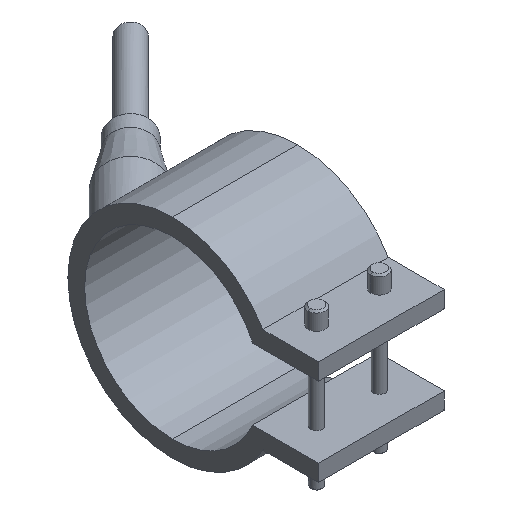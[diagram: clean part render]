
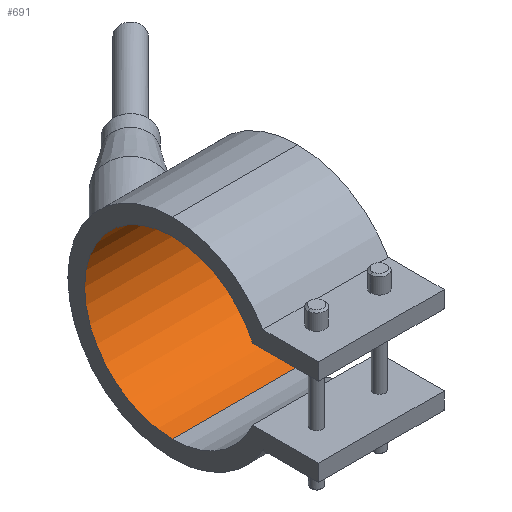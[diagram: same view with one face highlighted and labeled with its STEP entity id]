
A CAD part, isometric view. The second image highlights one B-rep face of the part: STEP entity #691.
In plain terms, the highlighted cylindrical face has radius 21 mm (diameter 42 mm), a partial arc.
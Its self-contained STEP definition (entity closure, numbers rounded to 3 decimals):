
#361=CARTESIAN_POINT('Vertex',(15.,0.,21.)) ;
#366=CARTESIAN_POINT('Axis2P3D Location',(15.,0.,0.)) ;
#370=CARTESIAN_POINT('Vertex',(15.,0.,-21.)) ;
#477=CARTESIAN_POINT('Vertex',(-15.,0.,-21.)) ;
#480=CARTESIAN_POINT('Axis2P3D Location',(-15.,0.,0.)) ;
#484=CARTESIAN_POINT('Vertex',(-15.,0.,21.)) ;
#663=CARTESIAN_POINT('Line Origine',(15.,0.,21.)) ;
#675=CARTESIAN_POINT('Axis2P3D Location',(15.,0.,0.)) ;
#680=CARTESIAN_POINT('Line Origine',(15.,0.,-21.)) ;
#367=DIRECTION('Axis2P3D Direction',(1.,0.,0.)) ;
#481=DIRECTION('Axis2P3D Direction',(1.,0.,0.)) ;
#664=DIRECTION('Vector Direction',(1.,0.,0.)) ;
#676=DIRECTION('Axis2P3D Direction',(1.,0.,-0.)) ;
#677=DIRECTION('Axis2P3D XDirection',(0.,0.,-1.)) ;
#681=DIRECTION('Vector Direction',(1.,0.,0.)) ;
#368=AXIS2_PLACEMENT_3D('Circle Axis2P3D',#366,#367,$) ;
#482=AXIS2_PLACEMENT_3D('Circle Axis2P3D',#480,#481,$) ;
#678=AXIS2_PLACEMENT_3D('Cylinder Axis2P3D',#675,#676,#677) ;
#686=ORIENTED_EDGE('',*,*,#372,.T.) ;
#687=ORIENTED_EDGE('',*,*,#667,.T.) ;
#688=ORIENTED_EDGE('',*,*,#486,.F.) ;
#689=ORIENTED_EDGE('',*,*,#684,.T.) ;
#665=VECTOR('Line Direction',#664,1.) ;
#682=VECTOR('Line Direction',#681,1.) ;
#691=ADVANCED_FACE('29042030',(#690),#679,.F.) ;
#369=CIRCLE('generated circle',#368,21.) ;
#483=CIRCLE('generated circle',#482,21.) ;
#679=CYLINDRICAL_SURFACE('generated cylinder',#678,21.) ;
#372=EDGE_CURVE('',#371,#362,#369,.T.) ;
#486=EDGE_CURVE('',#478,#485,#483,.T.) ;
#667=EDGE_CURVE('',#362,#485,#666,.F.) ;
#684=EDGE_CURVE('',#478,#371,#683,.T.) ;
#685=EDGE_LOOP('',(#686,#687,#688,#689)) ;
#690=FACE_OUTER_BOUND('',#685,.T.) ;
#666=LINE('Line',#663,#665) ;
#683=LINE('Line',#680,#682) ;
#362=VERTEX_POINT('',#361) ;
#371=VERTEX_POINT('',#370) ;
#478=VERTEX_POINT('',#477) ;
#485=VERTEX_POINT('',#484) ;
